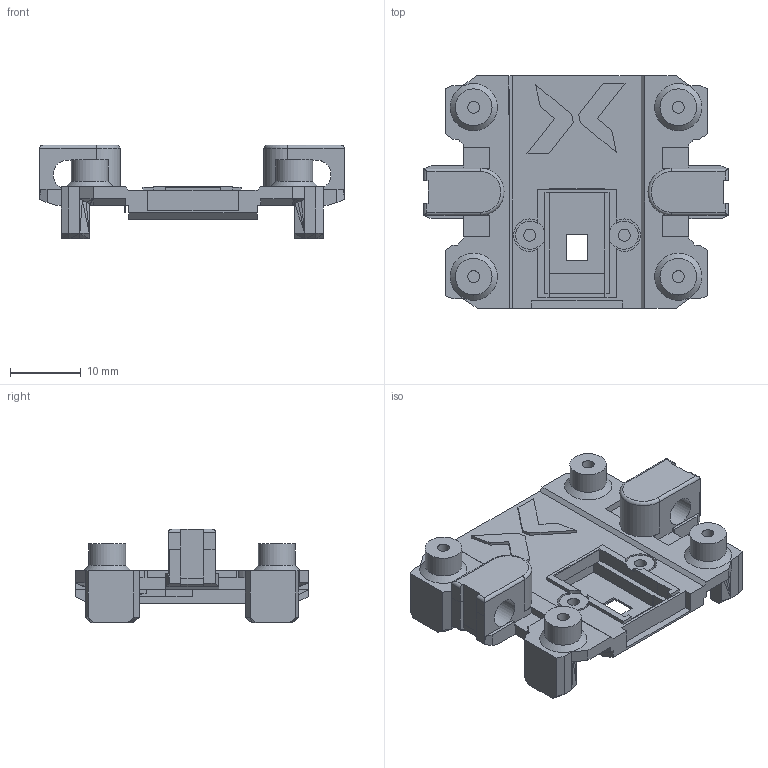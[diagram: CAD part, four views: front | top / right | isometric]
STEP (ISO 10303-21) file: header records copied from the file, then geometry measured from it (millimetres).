
FILE_DESCRIPTION(('Open CASCADE Model'),'2;1');
FILE_NAME('Open CASCADE Shape Model','2026-10-09T16:45:09',('Author'),( 'Open CASCADE'),'Open CASCADE STEP processor 7.9','Open CASCADE 7.9' ,'Unknown');
FILE_SCHEMA(('AUTOMOTIVE_DESIGN { 1 0 10303 214 1 1 1 1 }'));
Length unit declared in the file: millimetre
Products named in the file (1): Open CASCADE STEP translator 7.9 1
Bounding box: 43.15 x 32.95 x 13.28 mm (x, y, z)
Volume: 4820.7 mm3; surface area: 4689.5 mm2
Topology: 1 solids, 1 shells, 536 faces, 1458 edges, 937 vertices
Faces by surface type: plane 490, cylinder 38, cone 5, torus 2, bspline 1
Full cylindrical faces by diameter (mm): 1.7 x6, 5.2 x4
Entity records: 35674 total; most frequent: CARTESIAN_POINT 6275, DIRECTION 5429, LINE 4129, VECTOR 4129, ORIENTED_EDGE 2916, PCURVE 2916, DEFINITIONAL_REPRESENTATION 2916, EDGE_CURVE 1458
